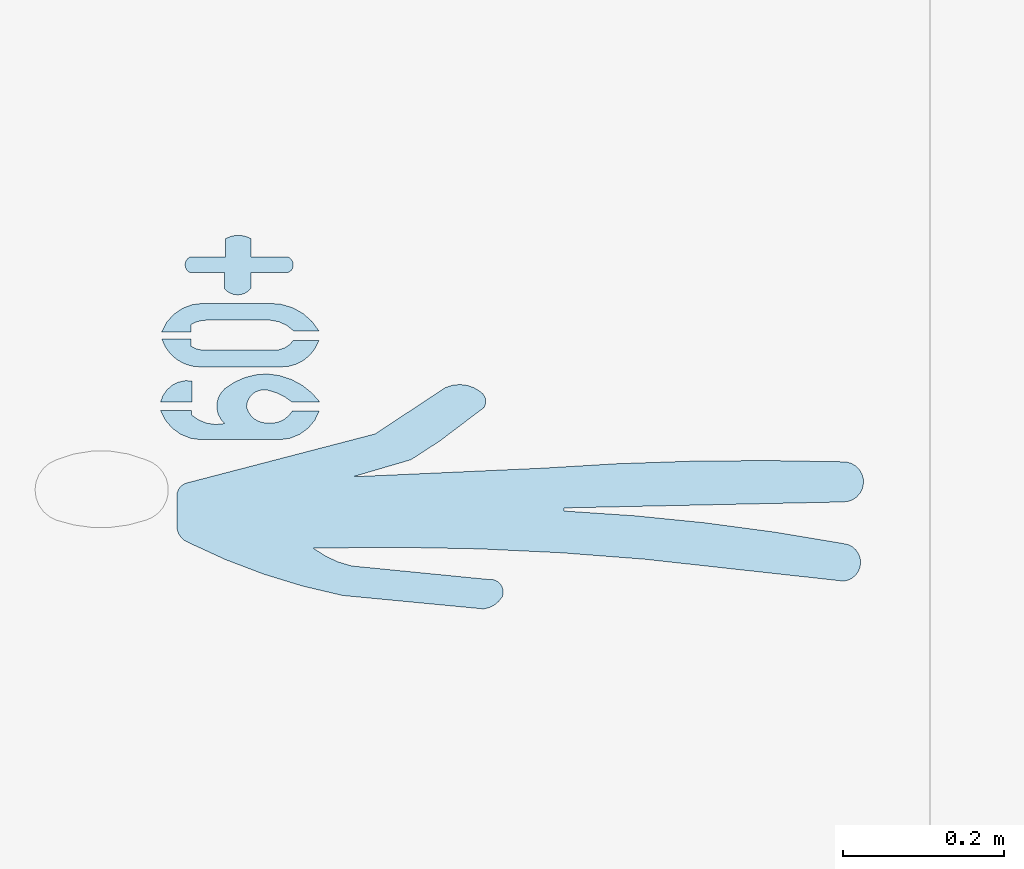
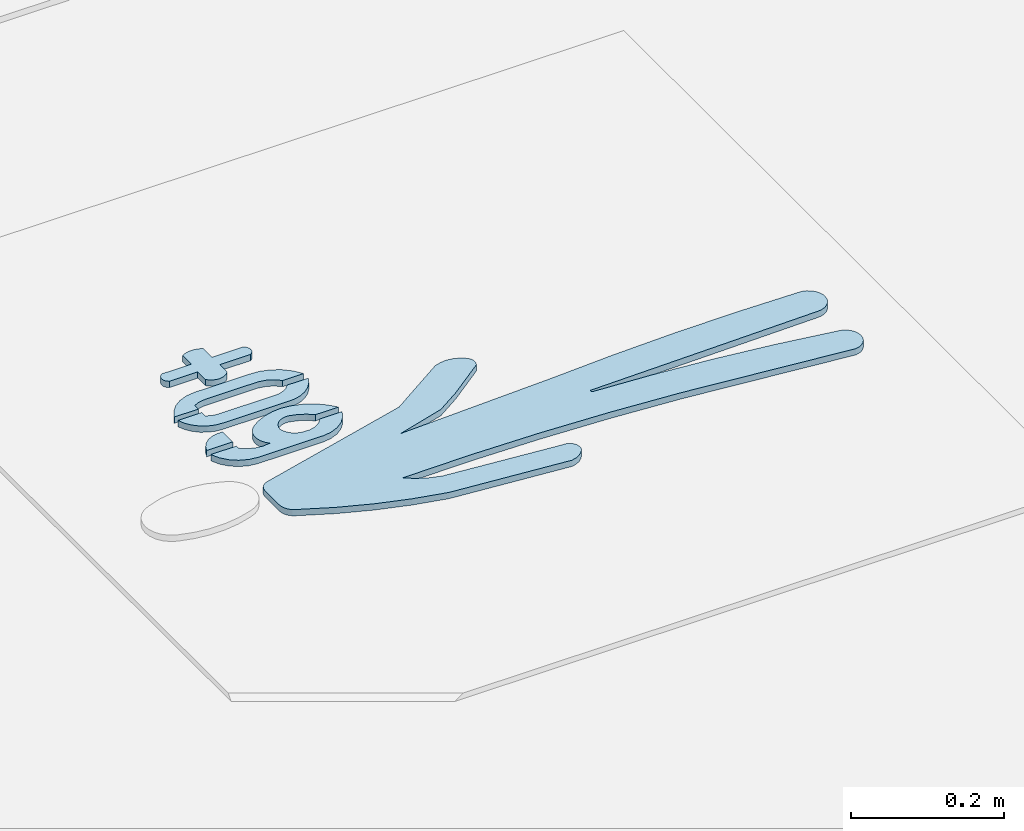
# One storey, part 16 of 237: 6 slabs.
"""IFC2X3 building model written with IfcOpenShell, lengths in millimetres."""

from ifc_helpers import new_model, entity, si_unit, converted_unit, derived_unit, money_unit, point, direction, frame, frame_2d, origin_with_axes, place, context, subcontext, project, spatial, polyline, circle_curve, parameter, trimmed, segment, composite_curve, outline, extrude, material, layer, layer_set, layer_usage, type_object, element, save


model = new_model("IFC2X3")

# Units and contexts
model_context = context("Model", 3, precision=0.01, world=origin_with_axes(), true_north=direction((0.0, 1.0)))
body_context = subcontext(model_context, "Body", "Model", "MODEL_VIEW")
ifc_project = project(units=[si_unit("LENGTHUNIT", "METRE", prefix="MILLI"), si_unit("AREAUNIT", "SQUARE_METRE"), si_unit("VOLUMEUNIT", "CUBIC_METRE"), converted_unit("PLANEANGLEUNIT", "DEGREE", entity("IfcPlaneAngleMeasure", 0.0174532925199), si_unit("PLANEANGLEUNIT", "RADIAN"), dimensions=[0, 0, 0, 0, 0, 0, 0]), money_unit("USD"), converted_unit("TIMEUNIT", "Year", entity("IfcTimeMeasure", 31556926.0), si_unit("TIMEUNIT", "SECOND"), dimensions=[0, 0, 1, 0, 0, 0, 0]), si_unit("MASSUNIT", "GRAM", prefix="KILO"), si_unit("THERMODYNAMICTEMPERATUREUNIT", "DEGREE_CELSIUS"), si_unit("LUMINOUSINTENSITYUNIT", "LUMEN"), si_unit("ENERGYUNIT", "JOULE", prefix="MEGA"), derived_unit("THERMALCONDUCTANCEUNIT", [(si_unit("POWERUNIT", "WATT"), 1), (si_unit("LENGTHUNIT", "METRE"), -1), (si_unit("THERMODYNAMICTEMPERATUREUNIT", "KELVIN"), -1)]), derived_unit("SPECIFICHEATCAPACITYUNIT", [(si_unit("ENERGYUNIT", "JOULE"), 1), (si_unit("MASSUNIT", "GRAM", prefix="KILO"), -1), (si_unit("THERMODYNAMICTEMPERATUREUNIT", "KELVIN"), -1)]), derived_unit("MASSDENSITYUNIT", [(si_unit("MASSUNIT", "GRAM", prefix="KILO"), 1), (si_unit("VOLUMEUNIT", "CUBIC_METRE"), -1)])], contexts=[model_context])

# Site, building, storey
site_placement = place(None, origin_with_axes())
site = spatial("IfcSite", under=ifc_project, at=site_placement, Name="Local", CompositionType="ELEMENT")
building_placement = place(site_placement, origin_with_axes())
building = spatial("IfcBuilding", under=site, at=building_placement, Name="Construção", CompositionType="ELEMENT")
storey_placement = place(building_placement, origin_with_axes())
storey = spatial("IfcBuildingStorey", under=building, at=storey_placement, Name="Pavimento Térreo", CompositionType="ELEMENT", Elevation=0.0)

# Slabs
ifc_material = material(Name="Concreto")
ifc_layer = layer(ifc_material, 10.0, ventilated="UNKNOWN")
ifc_layer_set = layer_set([ifc_layer], Name="Concreto 10")
ifc_layer_usage_1 = layer_usage(ifc_layer_set, "AXIS3", "NEGATIVE", 10.0)
slab_type = type_object("IfcSlabType", Name="Concreto 10", PredefinedType="FLOOR")
slab_1_placement = place(storey_placement, frame((119147.580251, 33361.3866495, -7114.6909271), z_axis=(0.0, 0.0, 1.0), x_axis=(1.0, 0.0, 0.0)))
element("IfcSlab", 1, at=slab_1_placement, inside=storey, type_object=slab_type, material=ifc_layer_usage_1, Name="Laje-030", PredefinedType="FLOOR", context=body_context, shape_type="SweptSolid", body=[
    extrude(outline(composite_curve([segment(trimmed(circle_curve(frame_2d((4.99737945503, -9.75110820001), x_axis=(-0.456086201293, 0.889935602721)), 10.9570941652), [point((0.0, 0.0)), parameter(0.0)], [point((0.0, -19.5022164)), parameter(125.730311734)], True, "CARTESIAN"), True, "CONTINUOUS"), segment(polyline([(0.0, -19.5022164), (42.7191406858, -19.5022164), (42.7191406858, -39.1901681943)]), True, "CONTINUOUS"), segment(trimmed(circle_curve(frame_2d((59.2495907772, -25.8307408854), x_axis=(-0.777759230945, -0.628562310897)), 21.2539426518), [point((42.7191406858, -39.1901681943)), parameter(0.0)], [point((75.7800408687, -39.1901681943)), parameter(102.111736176)], True, "CARTESIAN"), True, "CONTINUOUS"), segment(polyline([(75.7800408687, -39.1901681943), (75.7800408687, -19.5022164), (121.842418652, -19.5022164)]), True, "CONTINUOUS"), segment(trimmed(circle_curve(frame_2d((117.932705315, -9.75110820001), x_axis=(0.372151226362, -0.928172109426)), 10.5057112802), [point((121.842418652, -19.5022164)), parameter(0.0)], [point((121.842418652, 0.0)), parameter(136.303299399)], True, "CARTESIAN"), True, "CONTINUOUS"), segment(polyline([(121.842418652, 0.0), (75.7800408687, 0.0), (75.7800408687, 22.8454534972)]), True, "CONTINUOUS"), segment(trimmed(circle_curve(frame_2d((60.0854000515, -4.45351450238), x_axis=(0.498417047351, 0.866937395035)), 31.48897274), [point((75.7800408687, 22.8454534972)), parameter(0.0)], [point((44.3907592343, 22.8454534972)), parameter(59.7906556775)], True, "CARTESIAN"), True, "CONTINUOUS"), segment(polyline([(44.3907592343, 22.8454534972), (44.3907592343, 0.0), (0.0, 0.0)]), True, "CONTINUOUS")], self_intersect=False)), frame((0.0, 0.0, -10.0), z_axis=(0.0, 0.0, 1.0), x_axis=(1.0, 0.0, 0.0)), (0.0, 0.0, 1.0), 10.0),
])
ifc_layer_usage_2 = layer_usage(ifc_layer_set, "AXIS3", "NEGATIVE", 10.0)
slab_2_placement = place(storey_placement, frame((119112.426785, 33268.2368987, -7114.6909271), z_axis=(0.0, 0.0, 1.0), x_axis=(1.0, 0.0, 0.0)))
element("IfcSlab", 2, at=slab_2_placement, inside=storey, type_object=slab_type, material=ifc_layer_usage_2, Name="Laje-029", PredefinedType="FLOOR", context=body_context, shape_type="SweptSolid", body=[
    extrude(outline(composite_curve([segment(polyline([(0.0, 0.0), (36.3753513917, 0.0), (36.3753513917, 9.36130366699)]), True, "CONTINUOUS"), segment(trimmed(circle_curve(frame_2d((56.6807507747, -26.0564566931), x_axis=(0.0506171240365, 0.998718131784)), 40.8255678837), [point((36.3753513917, 9.36130366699)), parameter(32.7275184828)], [point((58.7472236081, 14.7167781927)), parameter(0.0)], False, "CARTESIAN"), True, "CONTINUOUS"), segment(polyline([(58.7472236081, 14.7167781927), (134.544897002, 14.7167781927)]), True, "CONTINUOUS"), segment(trimmed(circle_curve(frame_2d((132.038957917, -30.1547300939), x_axis=(0.71394079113, 0.700206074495)), 44.9414283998), [point((134.544897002, 14.7167781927)), parameter(42.359983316)], [point((164.124476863, 1.31353106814)), parameter(0.0)], False, "CARTESIAN"), True, "CONTINUOUS"), segment(polyline([(164.124476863, 1.31353106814), (195.526747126, 1.31353106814)]), True, "CONTINUOUS"), segment(trimmed(circle_curve(frame_2d((135.952877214, -33.3907775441), x_axis=(0.864076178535, 0.503361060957)), 68.9451594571), [point((195.526747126, 1.31353106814)), parameter(0.0)], [point((133.620535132, 35.5149202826)), parameter(61.7160094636)], True, "CARTESIAN"), True, "CONTINUOUS"), segment(polyline([(133.620535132, 35.5149202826), (50.8901477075, 35.5149202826)]), True, "CONTINUOUS"), segment(trimmed(circle_curve(frame_2d((51.0363796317, -18.9129116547), x_axis=(-0.00268670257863, 0.999996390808)), 54.4280283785), [point((50.8901477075, 35.5149202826)), parameter(0.0)], [point((0.0, 0.0)), parameter(69.5125129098)], True, "CARTESIAN"), True, "CONTINUOUS")], self_intersect=False)), frame((0.0, 0.0, -10.0), z_axis=(0.0, 0.0, 1.0), x_axis=(1.0, 0.0, 0.0)), (0.0, 0.0, 1.0), 10.0),
])
ifc_layer_usage_3 = layer_usage(ifc_layer_set, "AXIS3", "NEGATIVE", 10.0)
slab_3_placement = place(storey_placement, frame((119112.694251, 33259.1430609, -7114.6909271), z_axis=(0.0, 0.0, 1.0), x_axis=(1.0, 0.0, 0.0)))
element("IfcSlab", 3, at=slab_3_placement, inside=storey, type_object=slab_type, material=ifc_layer_usage_3, Name="Laje-028", PredefinedType="FLOOR", context=body_context, shape_type="SweptSolid", body=[
    extrude(outline(composite_curve([segment(trimmed(circle_curve(frame_2d((47.3796288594, 15.390112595), x_axis=(-0.951082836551, -0.308935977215)), 49.8165112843), [point((0.0, 0.0)), parameter(0.0)], [point((47.8495962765, -34.4241818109)), parameter(72.5454153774)], True, "CARTESIAN"), True, "CONTINUOUS"), segment(polyline([(47.8495962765, -34.4241818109), (146.294135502, -34.4241818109)]), True, "CONTINUOUS"), segment(trimmed(circle_curve(frame_2d((148.841104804, 14.7516040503), x_axis=(-0.051723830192, -0.998661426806)), 49.2416994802), [point((146.294135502, -34.4241818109)), parameter(0.0)], [point((195.285314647, -1.60933540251)), parameter(73.5590071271)], True, "CARTESIAN"), True, "CONTINUOUS"), segment(polyline([(195.285314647, -1.60933540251), (163.394830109, -1.60933540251)]), True, "CONTINUOUS"), segment(trimmed(circle_curve(frame_2d((140.131723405, 14.8366021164), x_axis=(-0.0432612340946, -0.999063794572)), 28.4893136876), [point((163.394830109, -1.60933540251)), parameter(57.2209209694)], [point((138.899240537, -13.6260397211)), parameter(0.0)], False, "CARTESIAN"), True, "CONTINUOUS"), segment(polyline([(138.899240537, -13.6260397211), (58.0175768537, -13.6260397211)]), True, "CONTINUOUS"), segment(trimmed(circle_curve(frame_2d((54.1455979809, 21.1059125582), x_axis=(-0.516143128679, -0.856502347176)), 34.9471133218), [point((58.0175768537, -13.6260397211)), parameter(37.4350619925)], [point((36.1078855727, -8.82637202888)), parameter(0.0)], False, "CARTESIAN"), True, "CONTINUOUS"), segment(polyline([(36.1078855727, -8.82637202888), (36.1078855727, 0.0), (0.0, 0.0)]), True, "CONTINUOUS")], self_intersect=False)), frame((0.0, 0.0, -10.0), z_axis=(0.0, 0.0, 1.0), x_axis=(1.0, 0.0, 0.0)), (0.0, 0.0, 1.0), 10.0),
])
ifc_layer_usage_4 = layer_usage(ifc_layer_set, "AXIS3", "NEGATIVE", 10.0)
slab_4_placement = place(storey_placement, frame((119150.272097, 33207.3551753, -7114.6909271), z_axis=(0.0, 0.0, 1.0), x_axis=(1.0, 0.0, 0.0)))
element("IfcSlab", 4, at=slab_4_placement, inside=storey, type_object=slab_type, material=ifc_layer_usage_4, Name="Laje-027", PredefinedType="FLOOR", context=body_context, shape_type="SweptSolid", body=[
    extrude(outline(composite_curve([segment(trimmed(circle_curve(frame_2d((-5.44533390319, -34.268794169), x_axis=(0.15693178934, 0.987609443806)), 34.6987307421), [point((0.0, 0.0)), parameter(0.0)], [point((-39.1901681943, -26.1886905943)), parameter(85.563073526)], True, "CARTESIAN"), True, "CONTINUOUS"), segment(polyline([(-39.1901681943, -26.1886905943), (0.0, -26.1886905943), (0.0, 0.0)]), True, "CONTINUOUS")], self_intersect=False)), frame((0.0, 0.0, -10.0), z_axis=(0.0, 0.0, 1.0), x_axis=(1.0, 0.0, 0.0)), (0.0, 0.0, 1.0), 10.0),
])
ifc_layer_usage_5 = layer_usage(ifc_layer_set, "AXIS3", "NEGATIVE", 10.0)
slab_5_placement = place(storey_placement, frame((119111.081929, 33170.5826793, -7114.6909271), z_axis=(0.0, 0.0, 1.0), x_axis=(1.0, 0.0, 0.0)))
element("IfcSlab", 5, at=slab_5_placement, inside=storey, type_object=slab_type, material=ifc_layer_usage_5, Name="Laje-026", PredefinedType="FLOOR", context=body_context, shape_type="SweptSolid", body=[
    extrude(outline(composite_curve([segment(trimmed(circle_curve(frame_2d((51.2025350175, 17.8849504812), x_axis=(-0.944064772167, -0.329760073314)), 54.2362521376), [point((0.0, 0.0)), parameter(0.0)], [point((50.1320263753, -36.3407358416)), parameter(69.6148157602)], True, "CARTESIAN"), True, "CONTINUOUS"), segment(polyline([(50.1320263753, -36.3407358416), (148.731300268, -36.3407358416)]), True, "CONTINUOUS"), segment(trimmed(circle_curve(frame_2d((147.10434246, 16.8365872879), x_axis=(0.0305806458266, -0.99953230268)), 53.2022056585), [point((148.731300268, -36.3407358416)), parameter(0.0)], [point((197.260630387, -0.906621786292)), parameter(68.765922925)], True, "CARTESIAN"), True, "CONTINUOUS"), segment(polyline([(197.260630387, -0.906621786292), (163.701257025, -0.906621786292)]), True, "CONTINUOUS"), segment(trimmed(circle_curve(frame_2d((136.822753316, 15.6077172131), x_axis=(-0.128178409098, -0.991751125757)), 31.5464317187), [point((163.701257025, -0.906621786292)), parameter(65.7974881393)], [point((132.779181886, -15.6784919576)), parameter(0.0)], False, "CARTESIAN"), True, "CONTINUOUS"), segment(trimmed(circle_curve(frame_2d((132.274705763, 10.3519631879), x_axis=(-0.975986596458, -0.21783058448)), 26.0353431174), [point((132.779181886, -15.6784919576)), parameter(78.5286215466)], [point((106.864559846, 4.68066917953)), parameter(0.0)], False, "CARTESIAN"), True, "CONTINUOUS"), segment(trimmed(circle_curve(frame_2d((128.61282787, 3.99987631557), x_axis=(0.178500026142, 0.983939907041)), 21.7589209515), [point((106.864559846, 4.68066917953)), parameter(98.4894404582)], [point((132.496795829, 25.4093469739)), parameter(0.0)], False, "CARTESIAN"), True, "CONTINUOUS"), segment(trimmed(circle_curve(frame_2d((118.836268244, -42.4157343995), x_axis=(0.648459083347, 0.761249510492)), 69.187077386), [point((132.496795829, 25.4093469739)), parameter(29.0380317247)], [point((163.701257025, 10.252894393)), parameter(0.0)], False, "CARTESIAN"), True, "CONTINUOUS"), segment(polyline([(163.701257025, 10.252894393), (198.249053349, 10.252894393)]), True, "CONTINUOUS"), segment(trimmed(circle_curve(frame_2d((128.593554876, -40.8092161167), x_axis=(0.806507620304, 0.59122369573)), 86.3668200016), [point((198.249053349, 10.252894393)), parameter(0.0)], [point((132.496795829, 45.4693577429)), parameter(51.1658127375)], True, "CARTESIAN"), True, "CONTINUOUS"), segment(trimmed(circle_curve(frame_2d((131.931334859, -37.58429648), x_axis=(0.00680822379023, 0.999976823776)), 83.0555791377), [point((132.496795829, 45.4693577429)), parameter(0.0)], [point((79.6721008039, 26.9695700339)), parameter(39.3817991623)], True, "CARTESIAN"), True, "CONTINUOUS"), segment(trimmed(circle_curve(frame_2d((98.6010394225, 5.34933620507), x_axis=(-0.658725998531, 0.752382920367)), 28.7356786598), [point((79.6721008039, 26.9695700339)), parameter(0.0)], [point((79.6721008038, -16.2708976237)), parameter(97.5944351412)], True, "CARTESIAN"), True, "CONTINUOUS"), segment(trimmed(circle_curve(frame_2d((69.3708865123, 28.7716833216), x_axis=(-0.674294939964, -0.738462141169)), 46.2055095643), [point((79.6721008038, -16.2708976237)), parameter(55.2813953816)], [point((38.2147452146, -5.34933620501)), parameter(0.0)], False, "CARTESIAN"), True, "CONTINUOUS"), segment(polyline([(38.2147452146, -5.34933620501), (38.2147452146, 0.0), (0.0, 0.0)]), True, "CONTINUOUS")], self_intersect=False)), frame((0.0, 0.0, -10.0), z_axis=(0.0, 0.0, 1.0), x_axis=(1.0, 0.0, 0.0)), (0.0, 0.0, 1.0), 10.0),
])
ifc_layer_usage_6 = layer_usage(ifc_layer_set, "AXIS3", "NEGATIVE", 10.0)
slab_6_placement = place(storey_placement, frame((119145.845992, 33081.026053, -7114.6909271), z_axis=(0.0, 0.0, 1.0), x_axis=(1.0, 0.0, 0.0)))
element("IfcSlab", 6, at=slab_6_placement, inside=storey, type_object=slab_type, material=ifc_layer_usage_6, Name="Laje-025", PredefinedType="FLOOR", context=body_context, shape_type="SweptSolid", body=[
    extrude(outline(composite_curve([segment(trimmed(circle_curve(frame_2d((2.5463421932, -16.9522425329), x_axis=(-0.148540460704, 0.988906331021)), 17.1424148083), [point((0.0, 0.0)), parameter(0.0)], [point((-14.5839362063, -16.3073026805)), parameter(79.3015292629)], True, "CARTESIAN"), True, "CONTINUOUS"), segment(polyline([(-14.5839362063, -16.3073026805), (-14.5839362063, -54.0301981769)]), True, "CONTINUOUS"), segment(trimmed(circle_curve(frame_2d((7.49210136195, -53.9842110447), x_axis=(-0.999997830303, -0.00208311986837)), 22.0760854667), [point((-14.5839362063, -54.0301981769)), parameter(0.0)], [point((0.0, -74.7500957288)), parameter(70.0417632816)], True, "CARTESIAN"), True, "CONTINUOUS"), segment(trimmed(circle_curve(frame_2d((341.651852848, 609.080375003), x_axis=(-0.446937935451, -0.894564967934)), 764.427956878), [point((0.0, -74.7500957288)), parameter(0.0)], [point((191.426589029, -140.44111993)), parameter(15.2138717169)], True, "CARTESIAN"), True, "CONTINUOUS"), segment(polyline([(191.426589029, -140.44111993), (366.926477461, -157.178166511)]), True, "CONTINUOUS"), segment(trimmed(circle_curve(frame_2d((362.928440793, -125.796764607), x_axis=(0.12637995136, -0.991981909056)), 31.6350546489), [point((366.926477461, -157.178166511)), parameter(0.0)], [point((390.110520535, -141.980436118)), parameter(51.9708165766)], True, "CARTESIAN"), True, "CONTINUOUS"), segment(trimmed(circle_curve(frame_2d((375.536658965, -136.129360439), x_axis=(0.928003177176, -0.372572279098)), 15.7045384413), [point((390.110520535, -141.980436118)), parameter(0.0)], [point((373.417566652, -120.568448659)), parameter(119.629206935)], True, "CARTESIAN"), True, "CONTINUOUS"), segment(polyline([(373.417566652, -120.568448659), (202.597509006, -103.727034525)]), True, "CONTINUOUS"), segment(trimmed(circle_curve(frame_2d((229.539630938, 16.2515760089), x_axis=(-0.606218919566, -0.795297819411)), 122.966438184), [point((202.597509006, -103.727034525)), parameter(24.6603446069)], [point((154.995049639, -81.5433641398)), parameter(0.0)], False, "CARTESIAN"), True, "CONTINUOUS"), segment(trimmed(circle_curve(frame_2d((242.083382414, -3634.29999659), x_axis=(0.0913818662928, 0.99581592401)), 3553.82386552), [point((154.995049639, -81.5433641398)), parameter(6.64731376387)], [point((566.838439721, -95.3456001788)), parameter(0.0)], False, "CARTESIAN"), True, "CONTINUOUS"), segment(polyline([(566.838439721, -95.3456001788), (814.588707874, -122.631514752)]), True, "CONTINUOUS"), segment(trimmed(circle_curve(frame_2d((812.168201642, -99.31537703), x_axis=(0.103257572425, -0.994654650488)), 23.4414404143), [point((814.588707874, -122.631514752)), parameter(0.0)], [point((814.588707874, -75.9992393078)), parameter(168.146425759)], True, "CARTESIAN"), True, "CONTINUOUS"), segment(trimmed(circle_curve(frame_2d((331.223480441, -2709.3482978), x_axis=(0.180539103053, 0.983567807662)), 2677.34368488), [point((814.588707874, -75.9992393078)), parameter(0.0)], [point((467.000661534, -35.4496901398)), parameter(7.49425231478)], True, "CARTESIAN"), True, "CONTINUOUS"), segment(polyline([(467.000661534, -35.4496901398), (467.000661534, -31.5956665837), (813.480367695, -24.1843359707)]), True, "CONTINUOUS"), segment(trimmed(circle_curve(frame_2d((814.17957842, 0.822838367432), x_axis=(-0.0279494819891, -0.999609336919)), 25.0169475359), [point((813.480367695, -24.1843359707)), parameter(0.0)], [point((812.411670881, 25.7772401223)), parameter(185.653974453)], True, "CARTESIAN"), True, "CONTINUOUS"), segment(trimmed(circle_curve(frame_2d((704.189721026, -3645.92332384), x_axis=(0.0294618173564, 0.99956590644)), 3673.29511772), [point((812.411670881, 25.7772401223)), parameter(0.0)], [point((439.060498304, 17.7911187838)), parameter(5.82734678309)], True, "CARTESIAN"), True, "CONTINUOUS"), segment(polyline([(439.060498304, 17.7911187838), (204.135428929, 7.14295699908), (276.535842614, 28.3406864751), (312.160660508, 51.4486764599), (367.363081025, 93.171436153)]), True, "CONTINUOUS"), segment(trimmed(circle_curve(frame_2d((355.175608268, 100.747403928), x_axis=(0.849286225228, -0.527932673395)), 14.3502536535), [point((367.363081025, 93.171436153)), parameter(0.0)], [point((363.51174936, 112.428094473)), parameter(86.3516249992)], True, "CARTESIAN"), True, "CONTINUOUS"), segment(trimmed(circle_curve(frame_2d((336.990930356, 79.8869823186), x_axis=(0.631756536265, 0.775166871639)), 41.9794928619), [point((363.51174936, 112.428094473)), parameter(0.0)], [point((319.125408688, 117.875150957)), parameter(64.3670495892)], True, "CARTESIAN"), True, "CONTINUOUS"), segment(polyline([(319.125408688, 117.875150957), (231.916963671, 60.3750773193), (0.0, 0.0)]), True, "CONTINUOUS")], self_intersect=False)), frame((0.0, 0.0, -10.0), z_axis=(0.0, 0.0, 1.0), x_axis=(1.0, 0.0, 0.0)), (0.0, 0.0, 1.0), 10.0),
])

save(model, "model.ifc")
